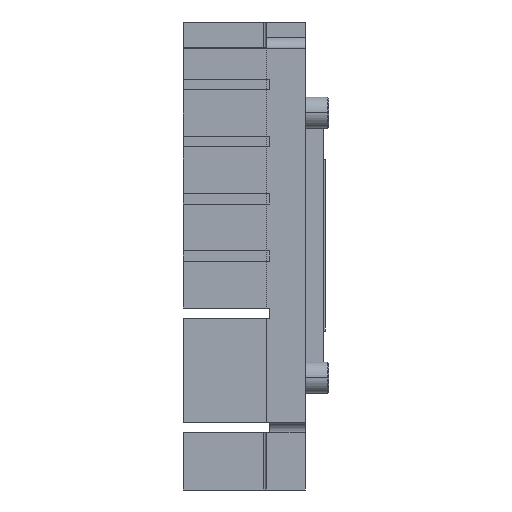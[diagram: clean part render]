
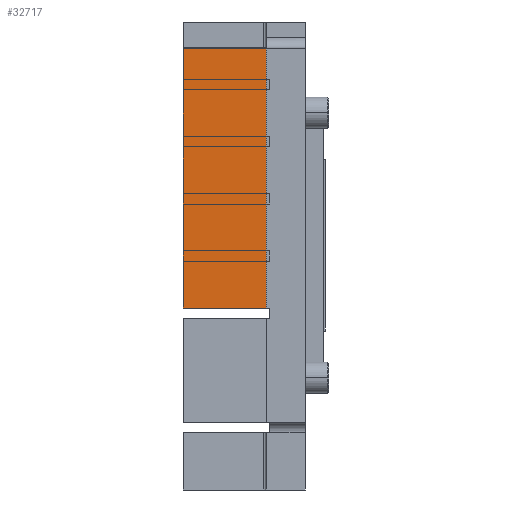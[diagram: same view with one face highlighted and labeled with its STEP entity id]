
A CAD part, left-side view. The second image highlights one B-rep face of the part: STEP entity #32717.
In plain terms, the highlighted planar face has unit normal (-1, 0.004, 0).
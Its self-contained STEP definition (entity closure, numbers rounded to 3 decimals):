
#11966=DIRECTION('',(0.,0.,-1.));
#11967=VECTOR('',#11966,9.);
#11968=CARTESIAN_POINT('',(-43.61,-28.582,44.));
#11969=LINE('',#11968,#11967);
#11978=DIRECTION('',(0.,0.,-1.));
#11979=VECTOR('',#11978,9.);
#11980=CARTESIAN_POINT('',(-43.61,-28.582,55.));
#11981=LINE('',#11980,#11979);
#11990=DIRECTION('',(0.,0.,-1.));
#11991=VECTOR('',#11990,9.);
#11992=CARTESIAN_POINT('',(-43.61,-28.582,66.));
#11993=LINE('',#11992,#11991);
#12002=DIRECTION('',(0.,0.,-1.));
#12003=VECTOR('',#12002,9.);
#12004=CARTESIAN_POINT('',(-43.61,-28.582,77.));
#12005=LINE('',#12004,#12003);
#12014=DIRECTION('',(0.,0.,-1.));
#12015=VECTOR('',#12014,6.);
#12016=CARTESIAN_POINT('',(-43.61,-28.582,85.));
#12017=LINE('',#12016,#12015);
#12018=DIRECTION('',(0.,0.,1.));
#12019=VECTOR('',#12018,2.);
#12020=CARTESIAN_POINT('',(-43.61,-28.582,44.));
#12021=LINE('',#12020,#12019);
#12022=DIRECTION('',(0.,0.,1.));
#12023=VECTOR('',#12022,2.);
#12024=CARTESIAN_POINT('',(-43.61,-28.582,55.));
#12025=LINE('',#12024,#12023);
#12026=DIRECTION('',(0.,0.,1.));
#12027=VECTOR('',#12026,2.);
#12028=CARTESIAN_POINT('',(-43.61,-28.582,66.));
#12029=LINE('',#12028,#12027);
#12030=DIRECTION('',(0.,0.,1.));
#12031=VECTOR('',#12030,2.);
#12032=CARTESIAN_POINT('',(-43.61,-28.582,77.));
#12033=LINE('',#12032,#12031);
#12034=DIRECTION('',(0.,0.,-1.));
#12035=VECTOR('',#12034,50.);
#12036=CARTESIAN_POINT('',(-43.678,-44.582,85.));
#12037=LINE('',#12036,#12035);
#12038=DIRECTION('',(0.004,1.,0.));
#12039=VECTOR('',#12038,16.);
#12040=CARTESIAN_POINT('',(-43.678,-44.582,35.));
#12041=LINE('',#12040,#12039);
#12333=DIRECTION('',(0.004,1.,0.));
#12334=VECTOR('',#12333,16.);
#12335=CARTESIAN_POINT('',(-43.678,-44.582,85.));
#12336=LINE('',#12335,#12334);
#13747=CARTESIAN_POINT('',(-43.61,-28.582,85.));
#13749=VERTEX_POINT('',#13747);
#13782=CARTESIAN_POINT('',(-43.678,-44.582,85.));
#13783=VERTEX_POINT('',#13782);
#15267=CARTESIAN_POINT('',(-43.61,-28.582,35.));
#15269=VERTEX_POINT('',#15267);
#15271=CARTESIAN_POINT('',(-43.61,-28.582,44.));
#15273=VERTEX_POINT('',#15271);
#15275=CARTESIAN_POINT('',(-43.61,-28.582,46.));
#15276=VERTEX_POINT('',#15275);
#15279=CARTESIAN_POINT('',(-43.61,-28.582,55.));
#15281=VERTEX_POINT('',#15279);
#15283=CARTESIAN_POINT('',(-43.61,-28.582,57.));
#15284=VERTEX_POINT('',#15283);
#15287=CARTESIAN_POINT('',(-43.61,-28.582,66.));
#15289=VERTEX_POINT('',#15287);
#15291=CARTESIAN_POINT('',(-43.61,-28.582,68.));
#15292=VERTEX_POINT('',#15291);
#15295=CARTESIAN_POINT('',(-43.61,-28.582,77.));
#15297=VERTEX_POINT('',#15295);
#15299=CARTESIAN_POINT('',(-43.61,-28.582,79.));
#15300=VERTEX_POINT('',#15299);
#15425=CARTESIAN_POINT('',(-43.678,-44.582,35.));
#15426=VERTEX_POINT('',#15425);
#32692=CARTESIAN_POINT('',(-43.578,-21.131,90.));
#32693=DIRECTION('',(1.,-0.004,0.));
#32694=DIRECTION('',(0.004,1.,0.));
#32695=AXIS2_PLACEMENT_3D('',#32692,#32693,#32694);
#32696=PLANE('',#32695);
#32698=ORIENTED_EDGE('',*,*,#32697,.T.);
#32699=ORIENTED_EDGE('',*,*,#32643,.F.);
#32701=ORIENTED_EDGE('',*,*,#32700,.T.);
#32702=ORIENTED_EDGE('',*,*,#32658,.F.);
#32704=ORIENTED_EDGE('',*,*,#32703,.T.);
#32705=ORIENTED_EDGE('',*,*,#32673,.F.);
#32707=ORIENTED_EDGE('',*,*,#32706,.T.);
#32708=ORIENTED_EDGE('',*,*,#32687,.F.);
#32710=ORIENTED_EDGE('',*,*,#32709,.F.);
#32712=ORIENTED_EDGE('',*,*,#32711,.T.);
#32713=ORIENTED_EDGE('',*,*,#20079,.T.);
#32714=ORIENTED_EDGE('',*,*,#32628,.F.);
#32715=EDGE_LOOP('',(#32698,#32699,#32701,#32702,#32704,#32705,#32707,#32708,
#32710,#32712,#32713,#32714));
#32716=FACE_OUTER_BOUND('',#32715,.F.);
#32717=ADVANCED_FACE('',(#32716),#32696,.F.);
#20079=EDGE_CURVE('',#15426,#15269,#12041,.T.);
#32628=EDGE_CURVE('',#15273,#15269,#11969,.T.);
#32643=EDGE_CURVE('',#15281,#15276,#11981,.T.);
#32658=EDGE_CURVE('',#15289,#15284,#11993,.T.);
#32673=EDGE_CURVE('',#15297,#15292,#12005,.T.);
#32687=EDGE_CURVE('',#13749,#15300,#12017,.T.);
#32697=EDGE_CURVE('',#15273,#15276,#12021,.T.);
#32700=EDGE_CURVE('',#15281,#15284,#12025,.T.);
#32703=EDGE_CURVE('',#15289,#15292,#12029,.T.);
#32706=EDGE_CURVE('',#15297,#15300,#12033,.T.);
#32709=EDGE_CURVE('',#13783,#13749,#12336,.T.);
#32711=EDGE_CURVE('',#13783,#15426,#12037,.T.);
